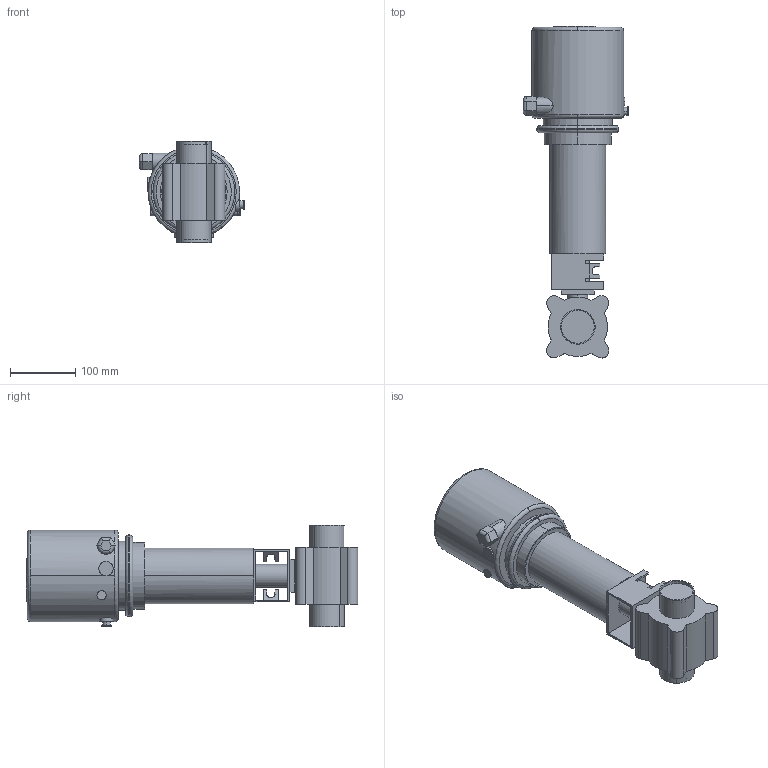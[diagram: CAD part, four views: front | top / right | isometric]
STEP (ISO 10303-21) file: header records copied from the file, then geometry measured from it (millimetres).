
FILE_DESCRIPTION(('Creo Elements/Direct Modeling STEP Export'),'2;1');
FILE_NAME('BLV1-DN50-NC-12S-CU4.stp','2019-05-09T14:18:03',(''),(''),'Creo Elements/Direct Modeling STEP processor for AP214 (Solid Model)','Creo Elements/Direct Modeling 19.0F 14-Feb-2017 (C) Parametric Technology GmbH','');
FILE_SCHEMA(('AUTOMOTIVE_DESIGN { 1 0 10303 214 1 1 1 1 }'));
Length unit declared in the file: millimetre
Products named in the file (2): BLV1-DN50-NC-12S-CU4
Assembly tree (1 placements, depth 2):
  BLV1-DN50-NC-12S-CU4
    BLV1-DN50-NC-12S-CU4
Bounding box: 161.4 x 507.56 x 155.5 mm (x, y, z)
Volume: 4408097.3 mm3; surface area: 268020.8 mm2
Topology: 1 solids, 1 shells, 227 faces, 580 edges, 379 vertices
Faces by surface type: plane 104, cylinder 80, extrusion 33, torus 10
Entity records: 10236 total; most frequent: CARTESIAN_POINT 5069, ORIENTED_EDGE 1162, DIRECTION 904, EDGE_CURVE 581, VERTEX_POINT 379, VECTOR 312, AXIS2_PLACEMENT_3D 296, LINE 279
